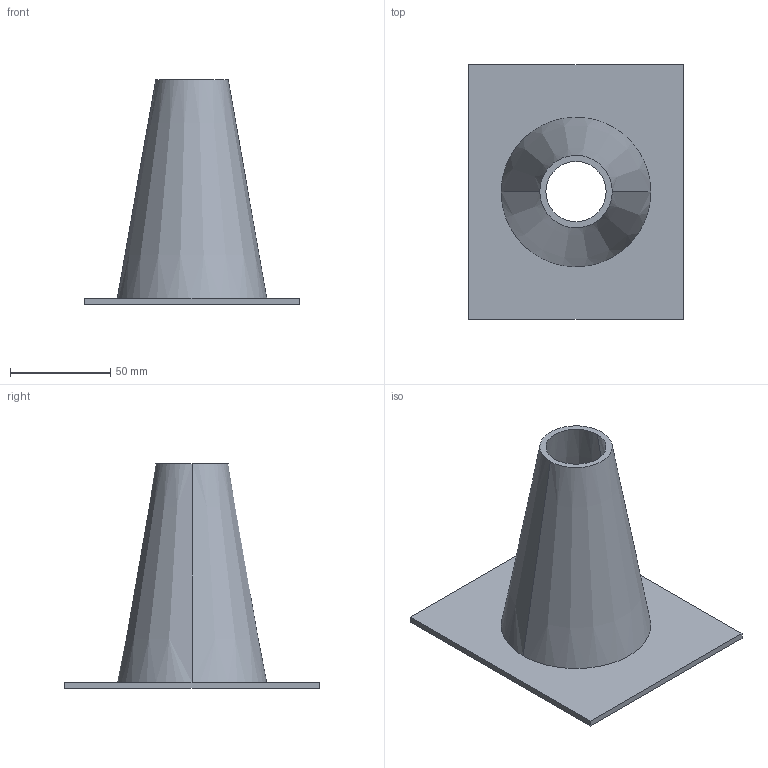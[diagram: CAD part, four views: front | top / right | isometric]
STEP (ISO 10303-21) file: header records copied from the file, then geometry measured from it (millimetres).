
FILE_DESCRIPTION(('CATIA V5 STEP Exchange'),'2;1');
FILE_NAME('C:\_Andres\UNIVERSIDAD\IQS\ASIGNATURAS\DAO\EXF\EXF-15161c\1original\Pañella_Caminero_Ej08-ensambla_v17.stp','2016-03-04T21:37:18+00:00',('none'),('none'),'CATIA Version 5 Release 20 SP 1 (IN-10)','CATIA V5 STEP AP203','none');
FILE_SCHEMA(('CONFIG_CONTROL_DESIGN'));
Length unit declared in the file: millimetre
Products named in the file (1): Pañella_Caminero_Ej08-ensambla_v17
Bounding box: 107 x 127 x 112 mm (x, y, z)
Volume: 84080.1 mm3; surface area: 57749.5 mm2
Topology: 1 solids, 1 shells, 11 faces, 24 edges, 16 vertices
Faces by surface type: plane 7, cone 4
Entity records: 414 total; most frequent: CARTESIAN_POINT 127, ORIENTED_EDGE 48, DIRECTION 44, EDGE_CURVE 24, AXIS2_PLACEMENT_3D 17, VECTOR 16, LINE 16, VERTEX_POINT 16
